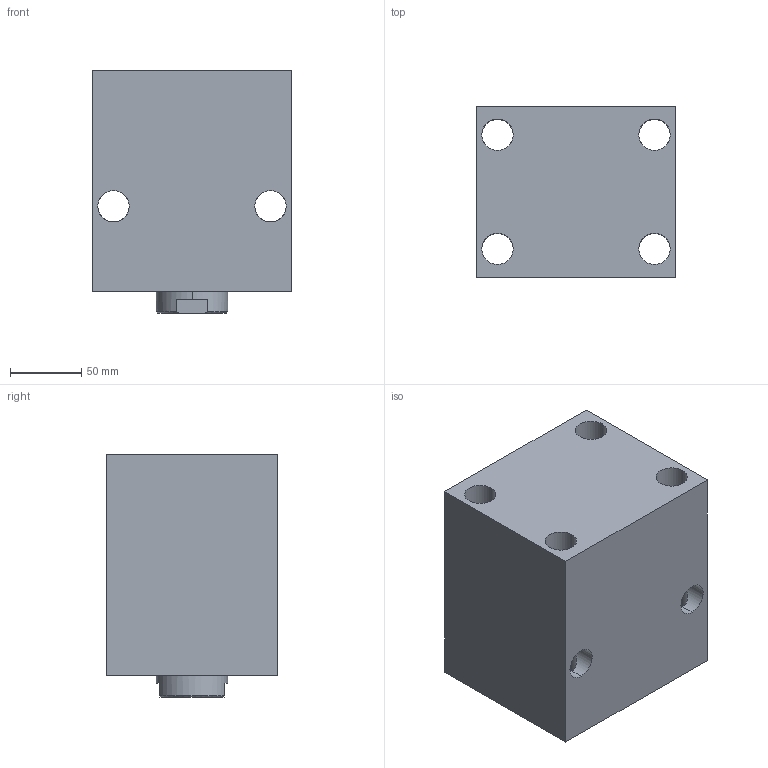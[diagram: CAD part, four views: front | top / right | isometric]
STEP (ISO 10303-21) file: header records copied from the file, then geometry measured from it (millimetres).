
FILE_DESCRIPTION (( 'STEP AP203' ), '1' );
FILE_NAME ('Block cylinder B01C-875F.STEP', '2022-07-09T18:39:24', ( '' ), ( '' ), 'SwSTEP 2.0', 'SolidWorks 2017', '' );
FILE_SCHEMA (( 'CONFIG_CONTROL_DESIGN' ));
Length unit declared in the file: millimetre
Products named in the file (3): Body_ 875F_50ST; Piston _875F; Block cylinder B01C-875F
Assembly tree (2 placements, depth 2):
  Block cylinder B01C-875F
    Body_ 875F_50ST
    Piston _875F
Bounding box: 140 x 120 x 170 mm (x, y, z)
Volume: 2406245.1 mm3; surface area: 202267.6 mm2
Topology: 2 solids, 2 shells, 346 faces, 945 edges, 617 vertices
Faces by surface type: bspline 151, plane 143, cylinder 44, cone 8
Entity records: 17334 total; most frequent: CARTESIAN_POINT 9368, ORIENTED_EDGE 1878, DIRECTION 1063, EDGE_CURVE 939, VERTEX_POINT 617, LINE 539, VECTOR 539, EDGE_LOOP 386
